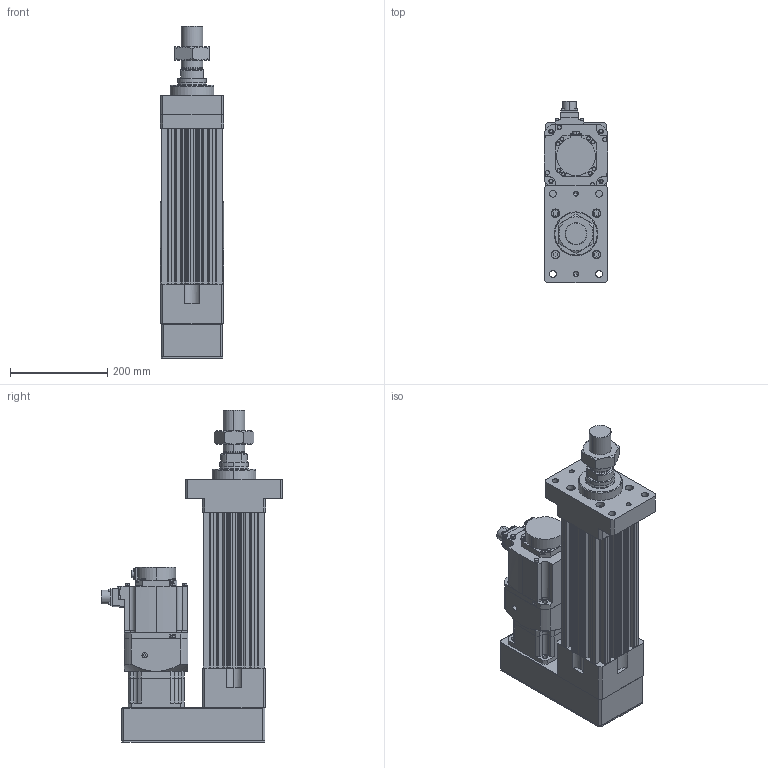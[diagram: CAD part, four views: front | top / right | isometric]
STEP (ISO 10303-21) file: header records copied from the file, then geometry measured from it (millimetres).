
FILE_DESCRIPTION (( 'STEP AP203' ), '1' );
FILE_NAME ('HES130NS(FS)(HS)-P100-W015G00-M-FMB.STEP', '2023-01-29T05:11:47', ( 'tms' ), ( '' ), 'SwSTEP 2.0', 'SolidWorks 2013', '' );
FILE_SCHEMA (( 'CONFIG_CONTROL_DESIGN' ));
Length unit declared in the file: millimetre
Products named in the file (8): P0401400706; HES130 ROD M ST100; AB115-003[HG-SR152]; HES130-P100-G120-FMB; M45X1.5P; HG-SR152; AB1151; HES130NS(FS)(HS)-P100-W015G00-M-FMB
Assembly tree (7 placements, depth 3):
  HES130NS(FS)(HS)-P100-W015G00-M-FMB
    HES130-P100-G120-FMB
    HES130 ROD M ST100
    M45X1.5P
    AB115-003[HG-SR152]
      AB1151
      P0401400706
    HG-SR152
Bounding box: 130 x 372.49 x 682 mm (x, y, z)
Volume: 9230235.7 mm3; surface area: 1003249.6 mm2
Topology: 4 solids, 11 shells, 1082 faces, 2768 edges, 1799 vertices
Faces by surface type: cylinder 513, plane 489, cone 68, bspline 8, torus 4
Entity records: 34626 total; most frequent: CARTESIAN_POINT 6632, DIRECTION 5993, ORIENTED_EDGE 5484, EDGE_CURVE 2752, AXIS2_PLACEMENT_3D 2228, VERTEX_POINT 1799, VECTOR 1537, LINE 1537
